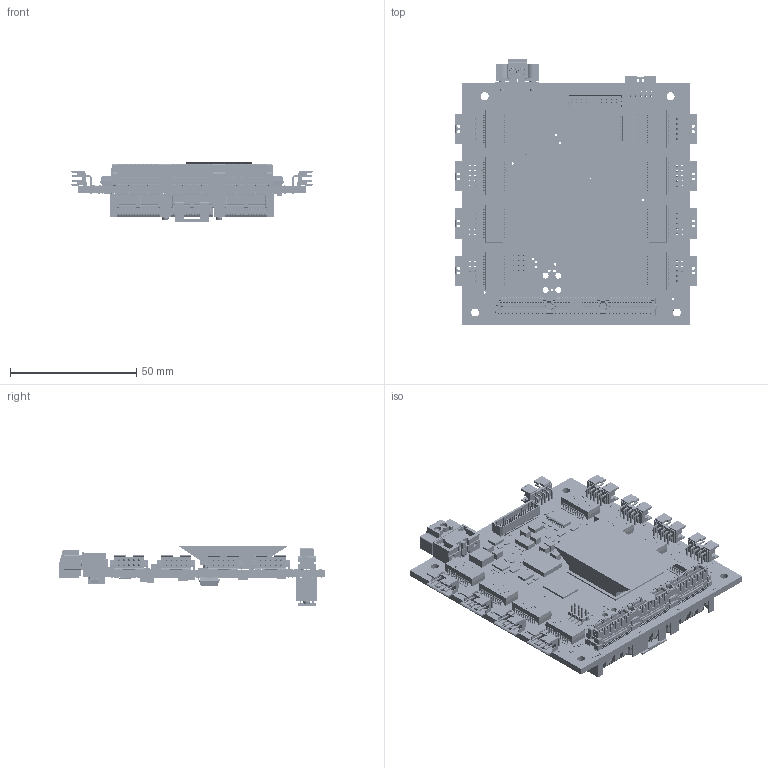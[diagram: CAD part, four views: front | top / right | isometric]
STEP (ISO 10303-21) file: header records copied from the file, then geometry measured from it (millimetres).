
FILE_DESCRIPTION(('Open CASCADE Model'),'2;1');
FILE_NAME('Open CASCADE Shape Model','2013-11-18T09:08:19',('Author'),( 'Open CASCADE'),'Open CASCADE STEP processor 6.2','Open CASCADE 6.2' ,'Unknown');
FILE_SCHEMA(('AUTOMOTIVE_DESIGN { 1 0 10303 214 1 1 1 1 }'));
Length unit declared in the file: millimetre
Products named in the file (587): PCB; Board; L1; 1027967072; Extruded; R85; 1027979872; 1027979744; D9; 1027984736; U17; 1357221888; U16; 1080821288; Cylinder; 1027988448; U15; 1357215616; U4; 1027966048; RN10; 1027967328; 1027963616; 1027966176; 1027968736; 1027987936; RN4; 1027965536; RN3; 1027964512; RN2; RN1; R88; R87; 1027981664; 1027967584; R86; R84; R83; R82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
Assembly tree (2078 placements, depth 4):
  PCB
    Board
    L1
      1027967072
        Extruded
    R85
      1027979872  x2
        Extruded
      1027979744
        Extruded
    D9
      1027979872  x2
        Extruded
      1027984736
        Extruded
    U17
      1357221888
        Extruded
    U16
      1080821288
        Cylinder
      1027988448
        Extruded
    U15
      1357215616
        Extruded
    U4
      1027966048
        Extruded
    RN10
      1027967328  x4
        Extruded
      1027963616  x4
        Extruded
      1027966176
        Extruded
      1027968736
        Extruded
      1027987936
        Extruded
    RN4
      1027963616  x4
        Extruded
      1027967328  x4
        Extruded
      1027968736
        Extruded
      1027966176
        Extruded
      1027965536
        Extruded
    RN3
      1027968736  x4
        Extruded
      1027966176  x4
        Extruded
      1027967328
        Extruded
      1027963616
        Extruded
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Bounding box: 95.65 x 105.67 x 23.59 mm (x, y, z)
Volume: 42536.2 mm3; surface area: 60826.5 mm2
Topology: 1573 solids, 1573 shells, 47629 faces, 129673 edges, 84896 vertices
Faces by surface type: plane 36416, cylinder 10689, extrusion 248, sphere 100, torus 70, cone 58, bspline 48
Full cylindrical faces by diameter (mm): 0.5 x8, 0.7 x2, 0.8 x90, 0.889 x8, 0.995 x6, 1 x1, 1.168 x6, 1.2 x2, 2.375 x4, 3.175 x4, 20 x1
Entity records: 1048982 total; most frequent: CARTESIAN_POINT 216944, DIRECTION 148838, VECTOR 110955, LINE 110924, ORIENTED_EDGE 81338, PCURVE 81338, DEFINITIONAL_REPRESENTATION 81338, EDGE_CURVE 40669
